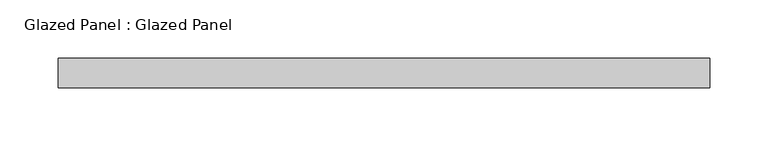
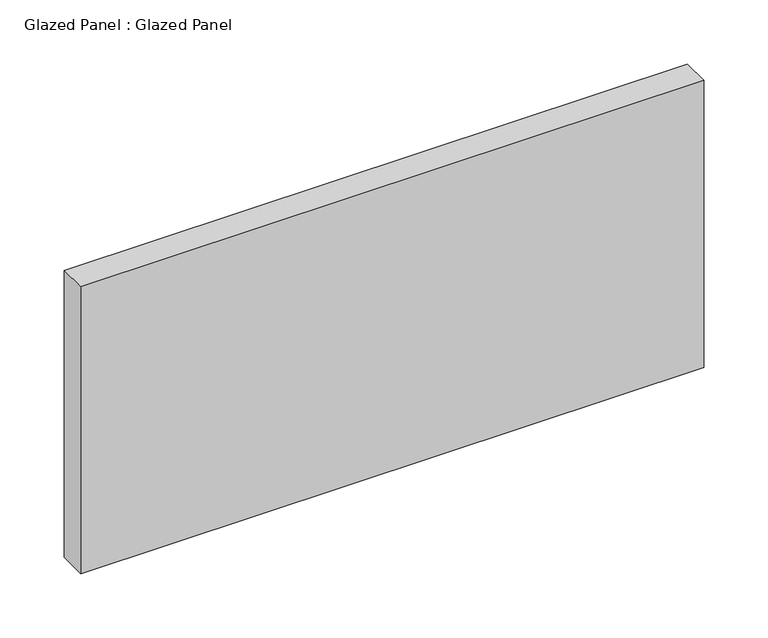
"""IFC4 building model written with IfcOpenShell, lengths in millimetres: plate geometry, Glazed Panel : Glazed Panel."""

from ifc_helpers import new_model, si_unit, origin, origin_with_axes, place, context, project, spatial, polyline, outline, extrude, source, transform, mapped, element, save


def glazed_panel_glazed_panel_424232f6(model_context):
    return source(origin(), model_context, "Body", "SweptSolid", [
        extrude(outline(polyline([(280.19375, 38.1), (-280.19375, 38.1), (-280.19375, 63.5), (280.19375, 63.5), (280.19375, 38.1)])), origin_with_axes(), (0.0, 0.0, 1.0), 273.05),
    ])


if __name__ == "__main__":
    model = new_model("IFC4")
    model_context = context("Model", 3, world=origin())
    ifc_project = project(units=[si_unit("LENGTHUNIT", "METRE", prefix="MILLI")], contexts=[model_context])
    site = spatial("IfcSite", under=ifc_project)
    building = spatial("IfcBuilding", under=site)
    placement = place(None, origin())
    glazed_panel_glazed_panel_shape = glazed_panel_glazed_panel_424232f6(model_context)
    element("IfcPlate", 1, ObjectType="Glazed Panel : Glazed Panel", at=placement, inside=building, context=model_context, shape_type="MappedRepresentation", body=[
        mapped(glazed_panel_glazed_panel_shape, transform((0.0, 0.0, 0.0), x_axis=(1.0, 0.0, 0.0), y_axis=(0.0, 1.0, 0.0), z_axis=(0.0, 0.0, 1.0))),
    ])
    save(model, "model.ifc")
